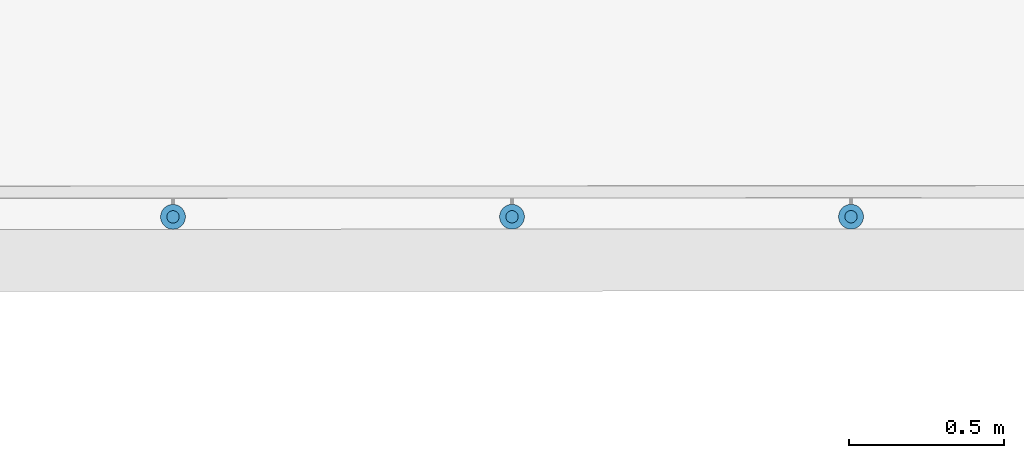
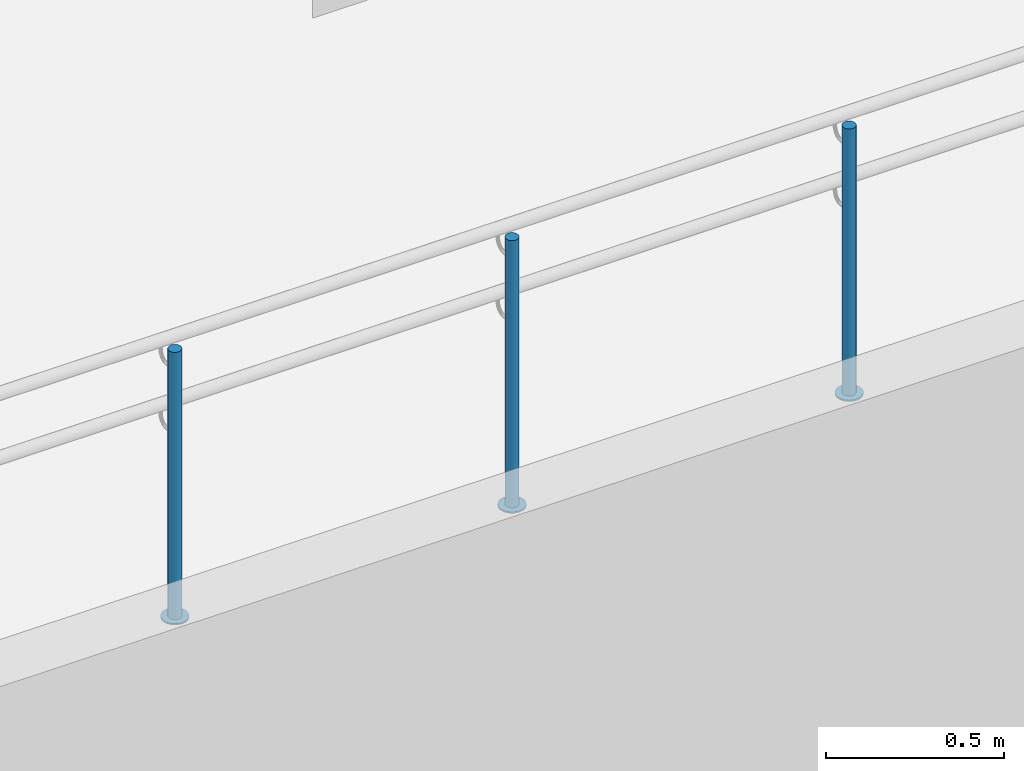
# One storey, part 129 of 237: 6 building element parts, 1 element without a shape of its own.
"""IFC2X3 building model written with IfcOpenShell, lengths in millimetres."""

from ifc_helpers import new_model, entity, si_unit, converted_unit, derived_unit, money_unit, direction, frame, origin_with_axes, place, context, subcontext, project, spatial, faceted_brep, material, type_object, element, aggregate, save


model = new_model("IFC2X3")

# Units and contexts
model_context = context("Model", 3, precision=0.01, world=origin_with_axes(), true_north=direction((0.0, 1.0)))
body_context = subcontext(model_context, "Body", "Model", "MODEL_VIEW")
ifc_project = project(units=[si_unit("LENGTHUNIT", "METRE", prefix="MILLI"), si_unit("AREAUNIT", "SQUARE_METRE"), si_unit("VOLUMEUNIT", "CUBIC_METRE"), converted_unit("PLANEANGLEUNIT", "DEGREE", entity("IfcPlaneAngleMeasure", 0.0174532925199), si_unit("PLANEANGLEUNIT", "RADIAN"), dimensions=[0, 0, 0, 0, 0, 0, 0]), money_unit("USD"), converted_unit("TIMEUNIT", "Year", entity("IfcTimeMeasure", 31556926.0), si_unit("TIMEUNIT", "SECOND"), dimensions=[0, 0, 1, 0, 0, 0, 0]), si_unit("MASSUNIT", "GRAM", prefix="KILO"), si_unit("THERMODYNAMICTEMPERATUREUNIT", "DEGREE_CELSIUS"), si_unit("LUMINOUSINTENSITYUNIT", "LUMEN"), si_unit("ENERGYUNIT", "JOULE", prefix="MEGA"), derived_unit("THERMALCONDUCTANCEUNIT", [(si_unit("POWERUNIT", "WATT"), 1), (si_unit("LENGTHUNIT", "METRE"), -1), (si_unit("THERMODYNAMICTEMPERATUREUNIT", "KELVIN"), -1)]), derived_unit("SPECIFICHEATCAPACITYUNIT", [(si_unit("ENERGYUNIT", "JOULE"), 1), (si_unit("MASSUNIT", "GRAM", prefix="KILO"), -1), (si_unit("THERMODYNAMICTEMPERATUREUNIT", "KELVIN"), -1)]), derived_unit("MASSDENSITYUNIT", [(si_unit("MASSUNIT", "GRAM", prefix="KILO"), 1), (si_unit("VOLUMEUNIT", "CUBIC_METRE"), -1)])], contexts=[model_context])

# Site, building, storey
site_placement = place(None, origin_with_axes())
site = spatial("IfcSite", under=ifc_project, at=site_placement, Name="Local", CompositionType="ELEMENT")
building_placement = place(site_placement, origin_with_axes())
building = spatial("IfcBuilding", under=site, at=building_placement, Name="Construção", CompositionType="ELEMENT")
storey_placement = place(building_placement, origin_with_axes())
storey = spatial("IfcBuildingStorey", under=building, at=storey_placement, Name="Pavimento Térreo", CompositionType="ELEMENT", Elevation=0.0)

# Railing, building element parts
railing_type = type_object("IfcRailingType", Name="Tipo de Guarda-Corpo", PredefinedType="NOTDEFINED")
railing_placement = place(storey_placement, frame((88000.0, 12000.0, -7124.22292764), z_axis=(0.0, 0.0, 1.0), x_axis=(1.0, 0.0, 0.0)))
railing = element("IfcRailing", 1, at=railing_placement, inside=storey, type_object=railing_type, Name="Guarda-Corpo - 003", PredefinedType="NOTDEFINED")
ifc_material_1 = material(Name="Aço - Inoxidável")
building_element_part_1_placement = place(railing_placement, origin_with_axes())
building_element_part_1 = element("IfcBuildingElementPart", 2, at=building_element_part_1_placement, material=ifc_material_1, Name="Aço - Inoxidável", context=body_context, shape_type="Brep", body=[
    faceted_brep([(5639.17334125, 1014.2084946, 2134.61538462), (5642.64637851, 1013.90549339, 2134.61538462), (5642.64637851, 1013.90549339, 3049.61538462), (5639.17334125, 1014.2084946, 3049.61538462), (5646.11926815, 1014.21018204, 2134.61538462), (5635.80568283, 1015.10997914, 2134.61538462), (5632.64572786, 1016.58255585, 2134.61538462), (5629.78948996, 1018.58148123, 2134.61538462), (5627.32375449, 1021.04601895, 2134.61538462), (5625.32344156, 1023.90128527, 2134.61538462), (5623.84932968, 1027.06052438, 2134.61538462), (5622.94620898, 1030.42774439, 2134.61538462), (5622.64152033, 1033.90063403, 2134.61538462), (5622.94452154, 1037.37367129, 2134.61538462), (5623.84600608, 1040.74132971, 2134.61538462), (5625.31858279, 1043.90128468, 2134.61538462), (5627.31750817, 1046.75752258, 2134.61538462), (5629.78204589, 1049.22325805, 2134.61538462), (5632.63731221, 1051.22357098, 2134.61538462), (5635.79655132, 1052.69768286, 2134.61538462), (5639.16377133, 1053.60080356, 2134.61538462), (5642.63666097, 1053.90549221, 2134.61538462), (5646.10969823, 1053.602491, 2134.61538462), (5649.47735665, 1052.70100646, 2134.61538462), (5652.63731162, 1051.22842975, 2134.61538462), (5655.49354952, 1049.22950437, 2134.61538462), (5657.95928499, 1046.76496665, 2134.61538462), (5659.95959792, 1043.90970033, 2134.61538462), (5661.4337098, 1040.75046122, 2134.61538462), (5662.3368305, 1037.38324121, 2134.61538462), (5662.64151915, 1033.91035157, 2134.61538462), (5662.33851794, 1030.43731431, 2134.61538462), (5661.4370334, 1027.06965589, 2134.61538462), (5659.96445669, 1023.90970092, 2134.61538462), (5657.96553131, 1021.05346302, 2134.61538462), (5655.50099359, 1018.58772755, 2134.61538462), (5652.64572727, 1016.58741462, 2134.61538462), (5649.48648816, 1015.11330274, 2134.61538462), (5646.11926815, 1014.21018204, 3049.61538462), (5622.94452154, 1037.37367129, 3049.61538462), (5622.64152033, 1033.90063403, 3049.61538462), (5622.94620898, 1030.42774439, 3049.61538462), (5623.84932968, 1027.06052438, 3049.61538462), (5625.32344156, 1023.90128527, 3049.61538462), (5627.32375449, 1021.04601895, 3049.61538462), (5629.78948996, 1018.58148123, 3049.61538462), (5632.64572786, 1016.58255585, 3049.61538462), (5635.80568283, 1015.10997914, 3049.61538462), (5649.48648816, 1015.11330274, 3049.61538462), (5652.64572727, 1016.58741462, 3049.61538462), (5655.50099359, 1018.58772755, 3049.61538462), (5657.96553131, 1021.05346302, 3049.61538462), (5659.96445669, 1023.90970092, 3049.61538462), (5661.4370334, 1027.06965589, 3049.61538462), (5662.33851794, 1030.43731431, 3049.61538462), (5662.64151915, 1033.91035157, 3049.61538462), (5662.3368305, 1037.38324121, 3049.61538462), (5661.4337098, 1040.75046122, 3049.61538462), (5659.95959792, 1043.90970033, 3049.61538462), (5657.95928499, 1046.76496665, 3049.61538462), (5655.49354952, 1049.22950437, 3049.61538462), (5652.63731162, 1051.22842975, 3049.61538462), (5649.47735665, 1052.70100646, 3049.61538462), (5646.10969823, 1053.602491, 3049.61538462), (5642.63666097, 1053.90549221, 3049.61538462), (5639.16377133, 1053.60080356, 3049.61538462), (5635.79655132, 1052.69768286, 3049.61538462), (5632.63731221, 1051.22357098, 3049.61538462), (5629.78204589, 1049.22325805, 3049.61538462), (5627.31750817, 1046.75752258, 3049.61538462), (5625.31858279, 1043.90128468, 3049.61538462), (5623.84600608, 1040.74132971, 3049.61538462)], [[[0, 1, 2, 3]], [[4, 1, 0, 5, 6, 7, 8, 9, 10, 11, 12, 13, 14, 15, 16, 17, 18, 19, 20, 21, 22, 23, 24, 25, 26, 27, 28, 29, 30, 31, 32, 33, 34, 35, 36, 37]], [[1, 4, 38, 2]], [[39, 40, 41, 42, 43, 44, 45, 46, 47, 3, 2, 38, 48, 49, 50, 51, 52, 53, 54, 55, 56, 57, 58, 59, 60, 61, 62, 63, 64, 65, 66, 67, 68, 69, 70, 71]], [[5, 0, 3, 47]], [[6, 5, 47, 46]], [[7, 6, 46, 45]], [[8, 7, 45, 44]], [[9, 8, 44, 43]], [[10, 9, 43, 42]], [[11, 10, 42, 41]], [[12, 11, 41, 40]], [[13, 12, 40, 39]], [[14, 13, 39, 71]], [[15, 14, 71, 70]], [[16, 15, 70, 69]], [[17, 16, 69, 68]], [[18, 17, 68, 67]], [[19, 18, 67, 66]], [[20, 19, 66, 65]], [[21, 20, 65, 64]], [[22, 21, 64, 63]], [[23, 22, 63, 62]], [[24, 23, 62, 61]], [[25, 24, 61, 60]], [[26, 25, 60, 59]], [[27, 26, 59, 58]], [[28, 27, 58, 57]], [[29, 28, 57, 56]], [[30, 29, 56, 55]], [[31, 30, 55, 54]], [[32, 31, 54, 53]], [[33, 32, 53, 52]], [[34, 33, 52, 51]], [[35, 34, 51, 50]], [[36, 35, 50, 49]], [[37, 36, 49, 48]], [[4, 37, 48, 38]]]),
])
ifc_material_2 = material(Name="Alumínio")
building_element_part_2_placement = place(railing_placement, origin_with_axes())
building_element_part_2 = element("IfcBuildingElementPart", 3, at=building_element_part_2_placement, material=ifc_material_2, Name="Alumínio", context=body_context, shape_type="Brep", body=[
    faceted_brep([(5682.64151856, 1033.91521035, 2129.61538462), (5682.03214126, 1040.86098962, 2129.61538462), (5682.03214126, 1040.86098962, 2134.61538462), (5682.64151856, 1033.91521035, 2134.61538462), (5682.03551613, 1026.96913581, 2129.61538462), (5680.23254706, 1020.23381898, 2129.61538462), (5677.28739364, 1013.91390903, 2129.61538462), (5673.28954288, 1008.20143324, 2129.61538462), (5668.36046744, 1003.2699623, 2129.61538462), (5662.64993479, 999.269336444, 2129.61538462), (5656.33145658, 996.321112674, 2129.61538462), (5649.59701656, 994.514871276, 2129.61538462), (5642.65123729, 993.90549398, 2129.61538462), (5635.70516275, 994.511496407, 2129.61538462), (5628.96984592, 996.31446548, 2129.61538462), (5622.64993597, 999.259618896, 2129.61538462), (5616.93746018, 1003.25746966, 2129.61538462), (5612.00598924, 1008.1865451, 2129.61538462), (5608.00536338, 1013.89707775, 2129.61538462), (5605.05713961, 1020.21555596, 2129.61538462), (5603.25089822, 1026.94999598, 2129.61538462), (5602.64152092, 1033.89577525, 2129.61538462), (5603.24752335, 1040.84184978, 2129.61538462), (5605.05049242, 1047.57716662, 2129.61538462), (5607.99564584, 1053.89707657, 2129.61538462), (5611.9934966, 1059.60955235, 2129.61538462), (5616.92257204, 1064.5410233, 2129.61538462), (5622.63310469, 1068.54164915, 2129.61538462), (5628.9515829, 1071.48987292, 2129.61538462), (5635.68602292, 1073.29611432, 2129.61538462), (5642.63180219, 1073.90549162, 2129.61538462), (5649.57787672, 1073.29948919, 2129.61538462), (5656.31319356, 1071.49652012, 2129.61538462), (5662.63310351, 1068.5513667, 2129.61538462), (5668.34557929, 1064.55351594, 2129.61538462), (5673.27705024, 1059.6244405, 2129.61538462), (5677.27767609, 1053.91390785, 2129.61538462), (5680.22589986, 1047.59542964, 2129.61538462), (5680.22589986, 1047.59542964, 2134.61538462), (5677.27767609, 1053.91390785, 2134.61538462), (5673.27705024, 1059.6244405, 2134.61538462), (5668.34557929, 1064.55351594, 2134.61538462), (5662.63310351, 1068.5513667, 2134.61538462), (5656.31319356, 1071.49652012, 2134.61538462), (5649.57787672, 1073.29948919, 2134.61538462), (5642.63180219, 1073.90549162, 2134.61538462), (5635.68602292, 1073.29611432, 2134.61538462), (5628.9515829, 1071.48987292, 2134.61538462), (5622.63310469, 1068.54164915, 2134.61538462), (5616.92257204, 1064.5410233, 2134.61538462), (5611.9934966, 1059.60955235, 2134.61538462), (5607.99564584, 1053.89707657, 2134.61538462), (5605.05049242, 1047.57716662, 2134.61538462), (5603.24752335, 1040.84184978, 2134.61538462), (5602.64152092, 1033.89577525, 2134.61538462), (5603.25089822, 1026.94999598, 2134.61538462), (5605.05713961, 1020.21555596, 2134.61538462), (5608.00536338, 1013.89707775, 2134.61538462), (5612.00598924, 1008.1865451, 2134.61538462), (5616.93746018, 1003.25746966, 2134.61538462), (5622.64993597, 999.259618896, 2134.61538462), (5628.96984592, 996.31446548, 2134.61538462), (5635.70516275, 994.511496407, 2134.61538462), (5642.65123729, 993.90549398, 2134.61538462), (5649.59701656, 994.514871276, 2134.61538462), (5656.33145658, 996.321112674, 2134.61538462), (5662.64993479, 999.269336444, 2134.61538462), (5668.36046744, 1003.2699623, 2134.61538462), (5673.28954288, 1008.20143324, 2134.61538462), (5677.28739364, 1013.91390903, 2134.61538462), (5680.23254706, 1020.23381898, 2134.61538462), (5682.03551613, 1026.96913581, 2134.61538462)], [[[0, 1, 2, 3]], [[0, 4, 5, 6, 7, 8, 9, 10, 11, 12, 13, 14, 15, 16, 17, 18, 19, 20, 21, 22, 23, 24, 25, 26, 27, 28, 29, 30, 31, 32, 33, 34, 35, 36, 37, 1]], [[1, 37, 38, 2]], [[3, 2, 38, 39, 40, 41, 42, 43, 44, 45, 46, 47, 48, 49, 50, 51, 52, 53, 54, 55, 56, 57, 58, 59, 60, 61, 62, 63, 64, 65, 66, 67, 68, 69, 70, 71]], [[4, 0, 3, 71]], [[5, 4, 71, 70]], [[6, 5, 70, 69]], [[7, 6, 69, 68]], [[8, 7, 68, 67]], [[9, 8, 67, 66]], [[10, 9, 66, 65]], [[11, 10, 65, 64]], [[12, 11, 64, 63]], [[13, 12, 63, 62]], [[14, 13, 62, 61]], [[15, 14, 61, 60]], [[16, 15, 60, 59]], [[17, 16, 59, 58]], [[18, 17, 58, 57]], [[19, 18, 57, 56]], [[20, 19, 56, 55]], [[21, 20, 55, 54]], [[22, 21, 54, 53]], [[23, 22, 53, 52]], [[24, 23, 52, 51]], [[25, 24, 51, 50]], [[26, 25, 50, 49]], [[27, 26, 49, 48]], [[28, 27, 48, 47]], [[29, 28, 47, 46]], [[30, 29, 46, 45]], [[31, 30, 45, 44]], [[32, 31, 44, 43]], [[33, 32, 43, 42]], [[34, 33, 42, 41]], [[35, 34, 41, 40]], [[36, 35, 40, 39]], [[37, 36, 39, 38]]]),
])
building_element_part_3_placement = place(railing_placement, origin_with_axes())
building_element_part_3 = element("IfcBuildingElementPart", 4, at=building_element_part_3_placement, material=ifc_material_1, Name="Aço - Inoxidável", context=body_context, shape_type="Brep", body=[
    faceted_brep([(6731.66467306, 1014.47390303, 2134.61538462), (6735.13771032, 1014.17090182, 2134.61538462), (6735.13771032, 1014.17090182, 3049.61538462), (6731.66467306, 1014.47390303, 3049.61538462), (6738.61059996, 1014.47559047, 2134.61538462), (6728.29701464, 1015.37538757, 2134.61538462), (6725.13705967, 1016.84796428, 2134.61538462), (6722.28082177, 1018.84688966, 2134.61538462), (6719.8150863, 1021.31142738, 2134.61538462), (6717.81477337, 1024.1666937, 2134.61538462), (6716.34066149, 1027.32593281, 2134.61538462), (6715.43754079, 1030.69315282, 2134.61538462), (6715.13285214, 1034.16604245, 2134.61538462), (6715.43585335, 1037.63907972, 2134.61538462), (6716.33733789, 1041.00673814, 2134.61538462), (6717.8099146, 1044.16669311, 2134.61538462), (6719.80883998, 1047.02293101, 2134.61538462), (6722.2733777, 1049.48866648, 2134.61538462), (6725.12864402, 1051.48897941, 2134.61538462), (6728.28788313, 1052.96309129, 2134.61538462), (6731.65510314, 1053.86621199, 2134.61538462), (6735.12799278, 1054.17090064, 2134.61538462), (6738.60103004, 1053.86789942, 2134.61538462), (6741.96868846, 1052.96641489, 2134.61538462), (6745.12864343, 1051.49383818, 2134.61538462), (6747.98488133, 1049.4949128, 2134.61538462), (6750.4506168, 1047.03037508, 2134.61538462), (6752.45092973, 1044.17510875, 2134.61538462), (6753.92504161, 1041.01586965, 2134.61538462), (6754.82816231, 1037.64864964, 2134.61538462), (6755.13285096, 1034.17576, 2134.61538462), (6754.82984975, 1030.70272274, 2134.61538462), (6753.92836521, 1027.33506432, 2134.61538462), (6752.4557885, 1024.17510935, 2134.61538462), (6750.45686312, 1021.31887145, 2134.61538462), (6747.9923254, 1018.85313598, 2134.61538462), (6745.13705908, 1016.85282305, 2134.61538462), (6741.97781997, 1015.37871117, 2134.61538462), (6738.61059996, 1014.47559047, 3049.61538462), (6715.43585335, 1037.63907972, 3049.61538462), (6715.13285214, 1034.16604245, 3049.61538462), (6715.43754079, 1030.69315282, 3049.61538462), (6716.34066149, 1027.32593281, 3049.61538462), (6717.81477337, 1024.1666937, 3049.61538462), (6719.8150863, 1021.31142738, 3049.61538462), (6722.28082177, 1018.84688966, 3049.61538462), (6725.13705967, 1016.84796428, 3049.61538462), (6728.29701464, 1015.37538757, 3049.61538462), (6741.97781997, 1015.37871117, 3049.61538462), (6745.13705908, 1016.85282305, 3049.61538462), (6747.9923254, 1018.85313598, 3049.61538462), (6750.45686312, 1021.31887145, 3049.61538462), (6752.4557885, 1024.17510935, 3049.61538462), (6753.92836521, 1027.33506432, 3049.61538462), (6754.82984975, 1030.70272274, 3049.61538462), (6755.13285096, 1034.17576, 3049.61538462), (6754.82816231, 1037.64864964, 3049.61538462), (6753.92504161, 1041.01586965, 3049.61538462), (6752.45092973, 1044.17510875, 3049.61538462), (6750.4506168, 1047.03037508, 3049.61538462), (6747.98488133, 1049.4949128, 3049.61538462), (6745.12864343, 1051.49383818, 3049.61538462), (6741.96868846, 1052.96641489, 3049.61538462), (6738.60103004, 1053.86789942, 3049.61538462), (6735.12799278, 1054.17090064, 3049.61538462), (6731.65510314, 1053.86621199, 3049.61538462), (6728.28788313, 1052.96309129, 3049.61538462), (6725.12864402, 1051.48897941, 3049.61538462), (6722.2733777, 1049.48866648, 3049.61538462), (6719.80883998, 1047.02293101, 3049.61538462), (6717.8099146, 1044.16669311, 3049.61538462), (6716.33733789, 1041.00673814, 3049.61538462)], [[[0, 1, 2, 3]], [[4, 1, 0, 5, 6, 7, 8, 9, 10, 11, 12, 13, 14, 15, 16, 17, 18, 19, 20, 21, 22, 23, 24, 25, 26, 27, 28, 29, 30, 31, 32, 33, 34, 35, 36, 37]], [[1, 4, 38, 2]], [[39, 40, 41, 42, 43, 44, 45, 46, 47, 3, 2, 38, 48, 49, 50, 51, 52, 53, 54, 55, 56, 57, 58, 59, 60, 61, 62, 63, 64, 65, 66, 67, 68, 69, 70, 71]], [[5, 0, 3, 47]], [[6, 5, 47, 46]], [[7, 6, 46, 45]], [[8, 7, 45, 44]], [[9, 8, 44, 43]], [[10, 9, 43, 42]], [[11, 10, 42, 41]], [[12, 11, 41, 40]], [[13, 12, 40, 39]], [[14, 13, 39, 71]], [[15, 14, 71, 70]], [[16, 15, 70, 69]], [[17, 16, 69, 68]], [[18, 17, 68, 67]], [[19, 18, 67, 66]], [[20, 19, 66, 65]], [[21, 20, 65, 64]], [[22, 21, 64, 63]], [[23, 22, 63, 62]], [[24, 23, 62, 61]], [[25, 24, 61, 60]], [[26, 25, 60, 59]], [[27, 26, 59, 58]], [[28, 27, 58, 57]], [[29, 28, 57, 56]], [[30, 29, 56, 55]], [[31, 30, 55, 54]], [[32, 31, 54, 53]], [[33, 32, 53, 52]], [[34, 33, 52, 51]], [[35, 34, 51, 50]], [[36, 35, 50, 49]], [[37, 36, 49, 48]], [[4, 37, 48, 38]]]),
])
building_element_part_4_placement = place(railing_placement, origin_with_axes())
building_element_part_4 = element("IfcBuildingElementPart", 5, at=building_element_part_4_placement, material=ifc_material_2, Name="Alumínio", context=body_context, shape_type="Brep", body=[
    faceted_brep([(6775.13285037, 1034.18061878, 2129.61538462), (6774.52347307, 1041.12639805, 2129.61538462), (6774.52347307, 1041.12639805, 2134.61538462), (6775.13285037, 1034.18061878, 2134.61538462), (6774.52684794, 1027.23454424, 2129.61538462), (6772.72387887, 1020.49922741, 2129.61538462), (6769.77872545, 1014.17931746, 2129.61538462), (6765.78087469, 1008.46684167, 2129.61538462), (6760.85179925, 1003.53537073, 2129.61538462), (6755.1412666, 999.534744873, 2129.61538462), (6748.82278839, 996.586521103, 2129.61538462), (6742.08834837, 994.780279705, 2129.61538462), (6735.1425691, 994.170902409, 2129.61538462), (6728.19649457, 994.776904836, 2129.61538462), (6721.46117773, 996.579873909, 2129.61538462), (6715.14126778, 999.525027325, 2129.61538462), (6709.428792, 1003.52287809, 2129.61538462), (6704.49732105, 1008.45195353, 2129.61538462), (6700.4966952, 1014.16248618, 2129.61538462), (6697.54847143, 1020.48096439, 2129.61538462), (6695.74223003, 1027.21540441, 2129.61538462), (6695.13285273, 1034.16118368, 2129.61538462), (6695.73885516, 1041.10725821, 2129.61538462), (6697.54182423, 1047.84257505, 2129.61538462), (6700.48697765, 1054.16248499, 2129.61538462), (6704.48482841, 1059.87496078, 2129.61538462), (6709.41390385, 1064.80643173, 2129.61538462), (6715.1244365, 1068.80705758, 2129.61538462), (6721.44291471, 1071.75528135, 2129.61538462), (6728.17735473, 1073.56152275, 2129.61538462), (6735.123134, 1074.17090005, 2129.61538462), (6742.06920854, 1073.56489762, 2129.61538462), (6748.80452537, 1071.76192855, 2129.61538462), (6755.12443532, 1068.81677513, 2129.61538462), (6760.83691111, 1064.81892437, 2129.61538462), (6765.76838205, 1059.88984893, 2129.61538462), (6769.76900791, 1054.17931628, 2129.61538462), (6772.71723168, 1047.86083807, 2129.61538462), (6772.71723168, 1047.86083807, 2134.61538462), (6769.76900791, 1054.17931628, 2134.61538462), (6765.76838205, 1059.88984893, 2134.61538462), (6760.83691111, 1064.81892437, 2134.61538462), (6755.12443532, 1068.81677513, 2134.61538462), (6748.80452537, 1071.76192855, 2134.61538462), (6742.06920854, 1073.56489762, 2134.61538462), (6735.123134, 1074.17090005, 2134.61538462), (6728.17735473, 1073.56152275, 2134.61538462), (6721.44291471, 1071.75528135, 2134.61538462), (6715.1244365, 1068.80705758, 2134.61538462), (6709.41390385, 1064.80643173, 2134.61538462), (6704.48482841, 1059.87496078, 2134.61538462), (6700.48697765, 1054.16248499, 2134.61538462), (6697.54182423, 1047.84257505, 2134.61538462), (6695.73885516, 1041.10725821, 2134.61538462), (6695.13285273, 1034.16118368, 2134.61538462), (6695.74223003, 1027.21540441, 2134.61538462), (6697.54847143, 1020.48096439, 2134.61538462), (6700.4966952, 1014.16248618, 2134.61538462), (6704.49732105, 1008.45195353, 2134.61538462), (6709.428792, 1003.52287809, 2134.61538462), (6715.14126778, 999.525027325, 2134.61538462), (6721.46117773, 996.579873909, 2134.61538462), (6728.19649457, 994.776904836, 2134.61538462), (6735.1425691, 994.170902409, 2134.61538462), (6742.08834837, 994.780279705, 2134.61538462), (6748.82278839, 996.586521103, 2134.61538462), (6755.1412666, 999.534744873, 2134.61538462), (6760.85179925, 1003.53537073, 2134.61538462), (6765.78087469, 1008.46684167, 2134.61538462), (6769.77872545, 1014.17931746, 2134.61538462), (6772.72387887, 1020.49922741, 2134.61538462), (6774.52684794, 1027.23454424, 2134.61538462)], [[[0, 1, 2, 3]], [[0, 4, 5, 6, 7, 8, 9, 10, 11, 12, 13, 14, 15, 16, 17, 18, 19, 20, 21, 22, 23, 24, 25, 26, 27, 28, 29, 30, 31, 32, 33, 34, 35, 36, 37, 1]], [[1, 37, 38, 2]], [[3, 2, 38, 39, 40, 41, 42, 43, 44, 45, 46, 47, 48, 49, 50, 51, 52, 53, 54, 55, 56, 57, 58, 59, 60, 61, 62, 63, 64, 65, 66, 67, 68, 69, 70, 71]], [[4, 0, 3, 71]], [[5, 4, 71, 70]], [[6, 5, 70, 69]], [[7, 6, 69, 68]], [[8, 7, 68, 67]], [[9, 8, 67, 66]], [[10, 9, 66, 65]], [[11, 10, 65, 64]], [[12, 11, 64, 63]], [[13, 12, 63, 62]], [[14, 13, 62, 61]], [[15, 14, 61, 60]], [[16, 15, 60, 59]], [[17, 16, 59, 58]], [[18, 17, 58, 57]], [[19, 18, 57, 56]], [[20, 19, 56, 55]], [[21, 20, 55, 54]], [[22, 21, 54, 53]], [[23, 22, 53, 52]], [[24, 23, 52, 51]], [[25, 24, 51, 50]], [[26, 25, 50, 49]], [[27, 26, 49, 48]], [[28, 27, 48, 47]], [[29, 28, 47, 46]], [[30, 29, 46, 45]], [[31, 30, 45, 44]], [[32, 31, 44, 43]], [[33, 32, 43, 42]], [[34, 33, 42, 41]], [[35, 34, 41, 40]], [[36, 35, 40, 39]], [[37, 36, 39, 38]]]),
])
building_element_part_5_placement = place(railing_placement, origin_with_axes())
building_element_part_5 = element("IfcBuildingElementPart", 6, at=building_element_part_5_placement, material=ifc_material_1, Name="Aço - Inoxidável", context=body_context, shape_type="Brep", body=[
    faceted_brep([(7824.15600487, 1014.73931146, 2134.61538462), (7827.62904214, 1014.43631025, 2134.61538462), (7827.62904214, 1014.43631025, 3049.61538462), (7824.15600487, 1014.73931146, 3049.61538462), (7831.10193177, 1014.7409989, 2134.61538462), (7820.78834645, 1015.640796, 2134.61538462), (7817.62839148, 1017.11337271, 2134.61538462), (7814.77215359, 1019.11229809, 2134.61538462), (7812.30641811, 1021.57683581, 2134.61538462), (7810.30610519, 1024.43210213, 2134.61538462), (7808.8319933, 1027.59134124, 2134.61538462), (7807.9288726, 1030.95856125, 2134.61538462), (7807.62418395, 1034.43145088, 2134.61538462), (7807.92718517, 1037.90448815, 2134.61538462), (7808.8286697, 1041.27214657, 2134.61538462), (7810.30124641, 1044.43210154, 2134.61538462), (7812.30017179, 1047.28833943, 2134.61538462), (7814.76470951, 1049.75407491, 2134.61538462), (7817.61997584, 1051.75438783, 2134.61538462), (7820.77921494, 1053.22849972, 2134.61538462), (7824.14643495, 1054.13162042, 2134.61538462), (7827.61932459, 1054.43630907, 2134.61538462), (7831.09236186, 1054.13330785, 2134.61538462), (7834.46002027, 1053.23182332, 2134.61538462), (7837.61997525, 1051.75924661, 2134.61538462), (7840.47621314, 1049.76032123, 2134.61538462), (7842.94194861, 1047.29578351, 2134.61538462), (7844.94226154, 1044.44051718, 2134.61538462), (7846.41637343, 1041.28127808, 2134.61538462), (7847.31949412, 1037.91405807, 2134.61538462), (7847.62418277, 1034.44116843, 2134.61538462), (7847.32118156, 1030.96813116, 2134.61538462), (7846.41969702, 1027.60047275, 2134.61538462), (7844.94712031, 1024.44051777, 2134.61538462), (7842.94819493, 1021.58427988, 2134.61538462), (7840.48365721, 1019.11854441, 2134.61538462), (7837.62839089, 1017.11823148, 2134.61538462), (7834.46915178, 1015.64411959, 2134.61538462), (7831.10193177, 1014.7409989, 3049.61538462), (7807.92718517, 1037.90448815, 3049.61538462), (7807.62418395, 1034.43145088, 3049.61538462), (7807.9288726, 1030.95856125, 3049.61538462), (7808.8319933, 1027.59134124, 3049.61538462), (7810.30610519, 1024.43210213, 3049.61538462), (7812.30641811, 1021.57683581, 3049.61538462), (7814.77215359, 1019.11229809, 3049.61538462), (7817.62839148, 1017.11337271, 3049.61538462), (7820.78834645, 1015.640796, 3049.61538462), (7834.46915178, 1015.64411959, 3049.61538462), (7837.62839089, 1017.11823148, 3049.61538462), (7840.48365721, 1019.11854441, 3049.61538462), (7842.94819493, 1021.58427988, 3049.61538462), (7844.94712031, 1024.44051777, 3049.61538462), (7846.41969702, 1027.60047275, 3049.61538462), (7847.32118156, 1030.96813116, 3049.61538462), (7847.62418277, 1034.44116843, 3049.61538462), (7847.31949412, 1037.91405807, 3049.61538462), (7846.41637343, 1041.28127808, 3049.61538462), (7844.94226154, 1044.44051718, 3049.61538462), (7842.94194861, 1047.29578351, 3049.61538462), (7840.47621314, 1049.76032123, 3049.61538462), (7837.61997525, 1051.75924661, 3049.61538462), (7834.46002027, 1053.23182332, 3049.61538462), (7831.09236186, 1054.13330785, 3049.61538462), (7827.61932459, 1054.43630907, 3049.61538462), (7824.14643495, 1054.13162042, 3049.61538462), (7820.77921494, 1053.22849972, 3049.61538462), (7817.61997584, 1051.75438783, 3049.61538462), (7814.76470951, 1049.75407491, 3049.61538462), (7812.30017179, 1047.28833943, 3049.61538462), (7810.30124641, 1044.43210154, 3049.61538462), (7808.8286697, 1041.27214657, 3049.61538462)], [[[0, 1, 2, 3]], [[4, 1, 0, 5, 6, 7, 8, 9, 10, 11, 12, 13, 14, 15, 16, 17, 18, 19, 20, 21, 22, 23, 24, 25, 26, 27, 28, 29, 30, 31, 32, 33, 34, 35, 36, 37]], [[1, 4, 38, 2]], [[39, 40, 41, 42, 43, 44, 45, 46, 47, 3, 2, 38, 48, 49, 50, 51, 52, 53, 54, 55, 56, 57, 58, 59, 60, 61, 62, 63, 64, 65, 66, 67, 68, 69, 70, 71]], [[5, 0, 3, 47]], [[6, 5, 47, 46]], [[7, 6, 46, 45]], [[8, 7, 45, 44]], [[9, 8, 44, 43]], [[10, 9, 43, 42]], [[11, 10, 42, 41]], [[12, 11, 41, 40]], [[13, 12, 40, 39]], [[14, 13, 39, 71]], [[15, 14, 71, 70]], [[16, 15, 70, 69]], [[17, 16, 69, 68]], [[18, 17, 68, 67]], [[19, 18, 67, 66]], [[20, 19, 66, 65]], [[21, 20, 65, 64]], [[22, 21, 64, 63]], [[23, 22, 63, 62]], [[24, 23, 62, 61]], [[25, 24, 61, 60]], [[26, 25, 60, 59]], [[27, 26, 59, 58]], [[28, 27, 58, 57]], [[29, 28, 57, 56]], [[30, 29, 56, 55]], [[31, 30, 55, 54]], [[32, 31, 54, 53]], [[33, 32, 53, 52]], [[34, 33, 52, 51]], [[35, 34, 51, 50]], [[36, 35, 50, 49]], [[37, 36, 49, 48]], [[4, 37, 48, 38]]]),
])
building_element_part_6_placement = place(railing_placement, origin_with_axes())
building_element_part_6 = element("IfcBuildingElementPart", 7, at=building_element_part_6_placement, material=ifc_material_2, Name="Alumínio", context=body_context, shape_type="Brep", body=[
    faceted_brep([(7867.62418218, 1034.4460272, 2129.61538462), (7867.01480489, 1041.39180648, 2129.61538462), (7867.01480489, 1041.39180648, 2134.61538462), (7867.62418218, 1034.4460272, 2134.61538462), (7867.01817976, 1027.49995267, 2129.61538462), (7865.21521068, 1020.76463584, 2129.61538462), (7862.27005727, 1014.44472589, 2129.61538462), (7858.2722065, 1008.7322501, 2129.61538462), (7853.34313107, 1003.80077916, 2129.61538462), (7847.63259842, 999.800153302, 2129.61538462), (7841.3141202, 996.851929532, 2129.61538462), (7834.57968018, 995.045688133, 2129.61538462), (7827.63390091, 994.436310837, 2129.61538462), (7820.68782638, 995.042313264, 2129.61538462), (7813.95250954, 996.845282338, 2129.61538462), (7807.6325996, 999.790435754, 2129.61538462), (7801.92012381, 1003.78828652, 2129.61538462), (7796.98865286, 1008.71736195, 2129.61538462), (7792.98802701, 1014.4278946, 2129.61538462), (7790.03980324, 1020.74637282, 2129.61538462), (7788.23356184, 1027.48081284, 2129.61538462), (7787.62418454, 1034.42659211, 2129.61538462), (7788.23018697, 1041.37266664, 2129.61538462), (7790.03315604, 1048.10798348, 2129.61538462), (7792.97830946, 1054.42789342, 2129.61538462), (7796.97616022, 1060.14036921, 2129.61538462), (7801.90523566, 1065.07184016, 2129.61538462), (7807.61576831, 1069.07246601, 2129.61538462), (7813.93424653, 1072.02068978, 2129.61538462), (7820.66868654, 1073.82693118, 2129.61538462), (7827.61446581, 1074.43630848, 2129.61538462), (7834.56054035, 1073.83030605, 2129.61538462), (7841.29585718, 1072.02733698, 2129.61538462), (7847.61576713, 1069.08218356, 2129.61538462), (7853.32824292, 1065.0843328, 2129.61538462), (7858.25971386, 1060.15525736, 2129.61538462), (7862.26033972, 1054.44472471, 2129.61538462), (7865.20856349, 1048.12624649, 2129.61538462), (7865.20856349, 1048.12624649, 2134.61538462), (7862.26033972, 1054.44472471, 2134.61538462), (7858.25971386, 1060.15525736, 2134.61538462), (7853.32824292, 1065.0843328, 2134.61538462), (7847.61576713, 1069.08218356, 2134.61538462), (7841.29585718, 1072.02733698, 2134.61538462), (7834.56054035, 1073.83030605, 2134.61538462), (7827.61446581, 1074.43630848, 2134.61538462), (7820.66868654, 1073.82693118, 2134.61538462), (7813.93424653, 1072.02068978, 2134.61538462), (7807.61576831, 1069.07246601, 2134.61538462), (7801.90523566, 1065.07184016, 2134.61538462), (7796.97616022, 1060.14036921, 2134.61538462), (7792.97830946, 1054.42789342, 2134.61538462), (7790.03315604, 1048.10798348, 2134.61538462), (7788.23018697, 1041.37266664, 2134.61538462), (7787.62418454, 1034.42659211, 2134.61538462), (7788.23356184, 1027.48081284, 2134.61538462), (7790.03980324, 1020.74637282, 2134.61538462), (7792.98802701, 1014.4278946, 2134.61538462), (7796.98865286, 1008.71736195, 2134.61538462), (7801.92012381, 1003.78828652, 2134.61538462), (7807.6325996, 999.790435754, 2134.61538462), (7813.95250954, 996.845282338, 2134.61538462), (7820.68782638, 995.042313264, 2134.61538462), (7827.63390091, 994.436310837, 2134.61538462), (7834.57968018, 995.045688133, 2134.61538462), (7841.3141202, 996.851929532, 2134.61538462), (7847.63259842, 999.800153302, 2134.61538462), (7853.34313107, 1003.80077916, 2134.61538462), (7858.2722065, 1008.7322501, 2134.61538462), (7862.27005727, 1014.44472589, 2134.61538462), (7865.21521068, 1020.76463584, 2134.61538462), (7867.01817976, 1027.49995267, 2134.61538462)], [[[0, 1, 2, 3]], [[0, 4, 5, 6, 7, 8, 9, 10, 11, 12, 13, 14, 15, 16, 17, 18, 19, 20, 21, 22, 23, 24, 25, 26, 27, 28, 29, 30, 31, 32, 33, 34, 35, 36, 37, 1]], [[1, 37, 38, 2]], [[3, 2, 38, 39, 40, 41, 42, 43, 44, 45, 46, 47, 48, 49, 50, 51, 52, 53, 54, 55, 56, 57, 58, 59, 60, 61, 62, 63, 64, 65, 66, 67, 68, 69, 70, 71]], [[4, 0, 3, 71]], [[5, 4, 71, 70]], [[6, 5, 70, 69]], [[7, 6, 69, 68]], [[8, 7, 68, 67]], [[9, 8, 67, 66]], [[10, 9, 66, 65]], [[11, 10, 65, 64]], [[12, 11, 64, 63]], [[13, 12, 63, 62]], [[14, 13, 62, 61]], [[15, 14, 61, 60]], [[16, 15, 60, 59]], [[17, 16, 59, 58]], [[18, 17, 58, 57]], [[19, 18, 57, 56]], [[20, 19, 56, 55]], [[21, 20, 55, 54]], [[22, 21, 54, 53]], [[23, 22, 53, 52]], [[24, 23, 52, 51]], [[25, 24, 51, 50]], [[26, 25, 50, 49]], [[27, 26, 49, 48]], [[28, 27, 48, 47]], [[29, 28, 47, 46]], [[30, 29, 46, 45]], [[31, 30, 45, 44]], [[32, 31, 44, 43]], [[33, 32, 43, 42]], [[34, 33, 42, 41]], [[35, 34, 41, 40]], [[36, 35, 40, 39]], [[37, 36, 39, 38]]]),
])
aggregate(railing, [building_element_part_1, building_element_part_2, building_element_part_3, building_element_part_4, building_element_part_5, building_element_part_6])

save(model, "model.ifc")
